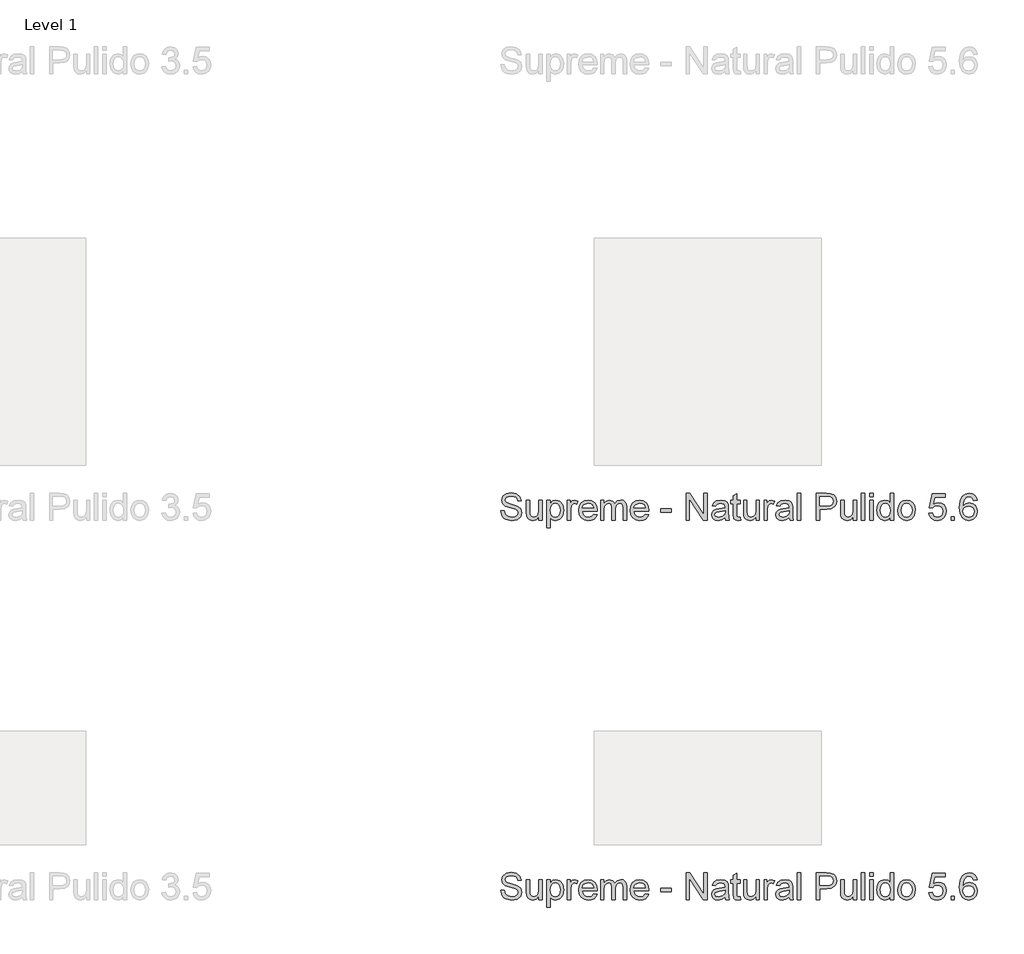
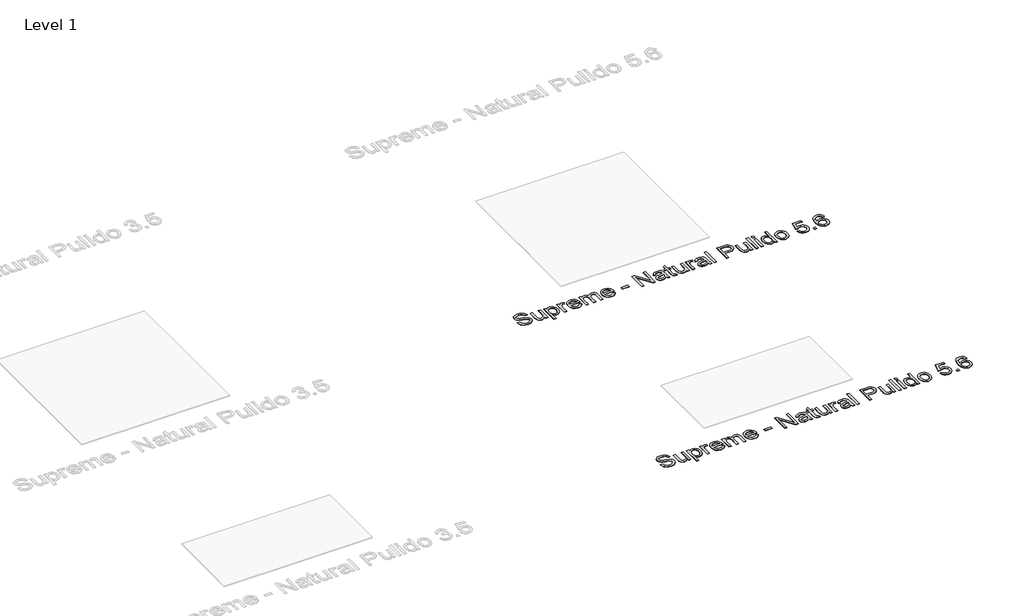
# One storey, part 37 of 80: 2 proxies.
"""IFC4 building model written with IfcOpenShell, lengths in millimetres."""

from ifc_helpers import new_model, si_unit, origin, origin_with_axes, place, context, project, spatial, polyline, outline, extrude, element, save

model = new_model("IFC4")

# Units and contexts
model_context = context("Model", 3, world=origin())
ifc_project = project(units=[si_unit("LENGTHUNIT", "METRE", prefix="MILLI")], contexts=[model_context])

# Site, building, storey
site = spatial("IfcSite", under=ifc_project)
building = spatial("IfcBuilding", under=site)
storey = spatial("IfcBuildingStorey", under=building, Name="Level 1", Elevation=0.0)

# Proxies
placement = place(None, origin())
element("IfcBuildingElementProxy", 1, Name="24\" Arial", ObjectType="24\" Arial", at=placement, inside=storey, context=model_context, shape_type="SweptSolid", body=[
    extrude(outline(polyline([(7862.4623536, -575.9830961), (7877.2315844, -575.9830961), (7881.9911998, -590.76675), (7893.6161998, -600.1129038), (7911.3277383, -603.6754038), (7926.7604306, -600.9782884), (7936.7267767, -593.5648269), (7940.0008152, -583.6561731), (7937.5488921, -574.4398269), (7927.5104306, -567.7330961), (7906.0056229, -562.0936731), (7882.8565844, -554.8100192), (7870.2940844, -543.8196346), (7866.1546613, -529.1369423), (7871.2748536, -512.4205961), (7886.2315844, -500.6225192), (7908.1258152, -496.5984808), (7931.4911998, -500.8100192), (7947.0681229, -513.1850192), (7952.9238921, -531.6754038), (7938.1546613, -531.6754038), (7935.4431229, -522.8629038), (7929.7892767, -516.5023269), (7920.9551421, -512.6513654), (7908.7027383, -511.3677115), (7896.1618729, -512.6369423), (7887.5585075, -516.4446346), (7882.5825459, -522.048), (7880.9238921, -528.70425), (7885.6258152, -538.9446346), (7909.7411998, -547.1946346), (7935.8758152, -554.6080961), (7950.1690844, -566.57925), (7954.7700459, -583.2811731), (7949.4767767, -600.9494423), (7934.2460075, -613.8436731), (7911.9046613, -618.4446346), (7885.5248536, -613.4830961), (7876.0380748, -607.26675), (7868.8373536, -598.5407884), (7862.4623536, -575.9830961)])), origin_with_axes(), (0.0, 0.0, 1.0), 2.0),
    extrude(outline(polyline([(8030.4623536, -616.5984808), (8030.4623536, -601.6850192), (8018.8950459, -614.2547308), (8003.8085075, -618.4446346), (7989.9190844, -615.5023269), (7980.3421613, -608.1177115), (7975.9431229, -597.2427115), (7975.0777383, -583.5119423), (7975.0777383, -529.82925), (7989.846969, -529.82925), (7989.846969, -576.5600192), (7990.7411998, -591.6177115), (7996.5825459, -600.4590577), (8007.5873536, -603.6754038), (8019.9190844, -600.3869423), (8028.0681229, -591.4302115), (8030.4623536, -574.9734808), (8030.4623536, -529.82925), (8045.2315844, -529.82925), (8045.2315844, -616.5984808), (8030.4623536, -616.5984808)])), origin_with_axes(), (0.0, 0.0, 1.0), 2.0),
    extrude(outline(polyline([(8065.5392767, -649.82925), (8065.5392767, -529.82925), (8080.3085075, -529.82925), (8080.3085075, -544.3100192), (8090.5200459, -532.0648269), (8104.3085075, -527.9830961), (8123.0296613, -533.6946346), (8135.2604306, -549.7907884), (8139.3854306, -572.5504038), (8134.7267767, -596.4782884), (8129.0152383, -605.8677115), (8121.1979306, -612.7763654), (8102.5200459, -618.4446346), (8089.6690844, -614.6513654), (8080.3085075, -605.0600192), (8080.3085075, -649.82925), (8065.5392767, -649.82925)]), holes=[polyline([(8080.3085075, -573.9061731), (8081.9058633, -587.1465577), (8086.6979306, -596.4061731), (8093.768844, -601.8580961), (8102.2027383, -603.6754038), (8110.7736517, -601.7931923), (8118.0248536, -596.1465577), (8122.9683633, -586.548), (8124.6161998, -572.8100192), (8123.0080267, -559.64175), (8118.1835075, -550.2523269), (8111.1234113, -544.6273269), (8102.8085075, -542.7523269), (8094.4611517, -544.7463173), (8087.1306229, -550.7282884), (8082.0140363, -560.5107404), (8080.3085075, -573.9061731)])]), origin_with_axes(), (0.0, 0.0, 1.0), 2.0),
    extrude(outline(polyline([(8156.0008152, -616.5984808), (8156.0008152, -529.82925), (8168.9238921, -529.82925), (8168.9238921, -542.6657884), (8178.096969, -530.8388654), (8187.3277383, -527.9830961), (8202.1546613, -532.5407884), (8197.221969, -545.7811731), (8186.8373536, -542.7523269), (8178.4863921, -545.6657884), (8173.1642767, -553.7427115), (8170.7700459, -570.9927115), (8170.7700459, -616.5984808), (8156.0008152, -616.5984808)])), origin_with_axes(), (0.0, 0.0, 1.0), 2.0),
    extrude(outline(polyline([(8272.1354306, -590.7523269), (8286.6161998, -592.5984808), (8281.3986517, -603.5095384), (8273.0729306, -611.6657884), (8261.8265363, -616.7499231), (8247.846969, -618.4446346), (8230.5176421, -615.5203558), (8217.1835075, -606.7475192), (8208.6811036, -592.6958365), (8205.846969, -573.9350192), (8208.7099498, -554.5431923), (8217.2988921, -540.0407884), (8230.4527383, -530.9975192), (8247.0104306, -527.9830961), (8263.0524979, -530.9903077), (8275.8710075, -540.0119423), (8284.2760556, -554.4855), (8287.0777383, -573.8484808), (8286.9911998, -577.82925), (8220.6161998, -577.82925), (8223.1726902, -588.8845384), (8229.1113921, -597.0119423), (8237.6823056, -602.0095384), (8248.1354306, -603.6754038), (8262.6161998, -600.5888654), (8272.1354306, -590.7523269)]), holes=[polyline([(8220.6161998, -563.0600192), (8272.3085075, -563.0600192), (8266.3950459, -549.6754038), (8257.784469, -544.4830961), (8246.9527383, -542.7523269), (8228.7652383, -548.2763654), (8223.0428825, -554.7342981), (8220.6161998, -563.0600192)])]), origin_with_axes(), (0.0, 0.0, 1.0), 2.0),
    extrude(outline(polyline([(8301.846969, -616.5984808), (8301.846969, -529.82925), (8316.6161998, -529.82925), (8316.6161998, -544.1080961), (8326.7700459, -532.4109808), (8341.221969, -527.9830961), (8356.0200459, -532.4975192), (8364.1546613, -545.1465577), (8375.6786998, -532.2739615), (8390.2315844, -527.9830961), (8401.3337479, -529.7679519), (8409.5440844, -535.1225192), (8414.6174017, -544.1910288), (8416.3085075, -557.1177115), (8416.3085075, -616.5984808), (8401.5392767, -616.5984808), (8401.5392767, -563.4638654), (8400.1690844, -551.1321346), (8395.2075459, -545.0600192), (8386.7700459, -542.7523269), (8378.768844, -544.2306923), (8372.2460075, -548.6657884), (8367.9082671, -556.3605), (8366.4623536, -567.6177115), (8366.4623536, -616.5984808), (8351.6931229, -616.5984808), (8351.6931229, -561.8196346), (8348.2748536, -547.5119423), (8337.0681229, -542.7523269), (8326.1354306, -545.9254038), (8318.8661998, -555.2138654), (8316.6161998, -572.8388654), (8316.6161998, -616.5984808), (8301.846969, -616.5984808)])), origin_with_axes(), (0.0, 0.0, 1.0), 2.0),
    extrude(outline(polyline([(8499.2123536, -590.7523269), (8513.6931229, -592.5984808), (8508.4755748, -603.5095384), (8500.1498536, -611.6657884), (8488.9034594, -616.7499231), (8474.9238921, -618.4446346), (8457.5945652, -615.5203558), (8444.2604306, -606.7475192), (8435.7580267, -592.6958365), (8432.9238921, -573.9350192), (8435.7868729, -554.5431923), (8444.3758152, -540.0407884), (8457.5296613, -530.9975192), (8474.0873536, -527.9830961), (8490.1294209, -530.9903077), (8502.9479306, -540.0119423), (8511.3529786, -554.4855), (8514.1546613, -573.8484808), (8514.0681229, -577.82925), (8447.6931229, -577.82925), (8450.2496133, -588.8845384), (8456.1883152, -597.0119423), (8464.7592286, -602.0095384), (8475.2123536, -603.6754038), (8489.6931229, -600.5888654), (8499.2123536, -590.7523269)]), holes=[polyline([(8447.6931229, -563.0600192), (8499.3854306, -563.0600192), (8493.471969, -549.6754038), (8484.8613921, -544.4830961), (8474.0296613, -542.7523269), (8455.8421613, -548.2763654), (8450.1198056, -554.7342981), (8447.6931229, -563.0600192)])]), origin_with_axes(), (0.0, 0.0, 1.0), 2.0),
    extrude(outline(polyline([(8567.6931229, -581.5215577), (8567.6931229, -566.7523269), (8613.846969, -566.7523269), (8613.846969, -581.5215577), (8567.6931229, -581.5215577)])), origin_with_axes(), (0.0, 0.0, 1.0), 2.0),
    extrude(outline(polyline([(8678.4623536, -616.5984808), (8678.4623536, -498.4446346), (8694.2700459, -498.4446346), (8756.0008152, -592.0504038), (8756.0008152, -498.4446346), (8770.7700459, -498.4446346), (8770.7700459, -616.5984808), (8754.9623536, -616.5984808), (8693.2315844, -522.9638654), (8693.2315844, -616.5984808), (8678.4623536, -616.5984808)])), origin_with_axes(), (0.0, 0.0, 1.0), 2.0),
    extrude(outline(polyline([(8850.1546613, -605.5215577), (8835.8325459, -615.5311731), (8820.0104306, -618.4446346), (8807.6678825, -616.6922308), (8798.5633152, -611.4350192), (8792.9491325, -603.4518461), (8791.0777383, -593.5215577), (8793.9046613, -581.8388654), (8801.3325459, -573.3580961), (8811.6738921, -568.5119423), (8824.4527383, -566.2907884), (8850.0681229, -561.2138654), (8850.1546613, -557.9254038), (8846.0873536, -547.0215577), (8829.7604306, -542.7523269), (8814.8181229, -545.5936731), (8807.6931229, -555.6754038), (8792.9238921, -553.82925), (8799.3133152, -539.4061731), (8812.1786998, -530.95425), (8831.6642767, -527.9830961), (8849.5633152, -530.6080961), (8859.6738921, -537.1994423), (8864.2027383, -547.2234808), (8864.9238921, -560.1465577), (8864.9238921, -578.5215577), (8865.6738921, -604.1802115), (8868.6161998, -616.5984808), (8853.846969, -616.5984808), (8850.1546613, -605.5215577)]), holes=[polyline([(8850.1546613, -575.9830961), (8826.3277383, -580.5119423), (8813.6210075, -582.9061731), (8807.8661998, -586.8004038), (8805.846969, -592.4830961), (8810.2460075, -600.4734808), (8823.1546613, -603.6754038), (8838.096969, -600.14175), (8847.7315844, -591.5888654), (8850.0681229, -580.1657884), (8850.1546613, -575.9830961)])]), origin_with_axes(), (0.0, 0.0, 1.0), 2.0),
    extrude(outline(polyline([(8916.6161998, -604.2811731), (8918.4623536, -617.0311731), (8907.4142767, -618.4446346), (8895.0392767, -615.9927115), (8888.8661998, -609.5600192), (8887.0777383, -592.8004038), (8887.0777383, -544.5984808), (8876.0008152, -544.5984808), (8876.0008152, -529.82925), (8887.0777383, -529.82925), (8887.0777383, -508.7427115), (8901.846969, -500.0600192), (8901.846969, -529.82925), (8916.6161998, -529.82925), (8916.6161998, -544.5984808), (8901.846969, -544.5984808), (8901.846969, -592.3677115), (8902.6258152, -599.9830961), (8905.1498536, -602.6802115), (8910.1835075, -603.6754038), (8916.6161998, -604.2811731)])), origin_with_axes(), (0.0, 0.0, 1.0), 2.0),
    extrude(outline(polyline([(8986.7700459, -616.5984808), (8986.7700459, -601.6850192), (8975.2027383, -614.2547308), (8960.1161998, -618.4446346), (8946.2267767, -615.5023269), (8936.6498536, -608.1177115), (8932.2508152, -597.2427115), (8931.3854306, -583.5119423), (8931.3854306, -529.82925), (8946.1546613, -529.82925), (8946.1546613, -576.5600192), (8947.0488921, -591.6177115), (8952.8902383, -600.4590577), (8963.8950459, -603.6754038), (8976.2267767, -600.3869423), (8984.3758152, -591.4302115), (8986.7700459, -574.9734808), (8986.7700459, -529.82925), (9001.5392767, -529.82925), (9001.5392767, -616.5984808), (8986.7700459, -616.5984808)])), origin_with_axes(), (0.0, 0.0, 1.0), 2.0),
    extrude(outline(polyline([(9021.846969, -616.5984808), (9021.846969, -529.82925), (9034.7700459, -529.82925), (9034.7700459, -542.6657884), (9043.9431229, -530.8388654), (9053.1738921, -527.9830961), (9068.0008152, -532.5407884), (9063.0681229, -545.7811731), (9052.6835075, -542.7523269), (9044.3325459, -545.6657884), (9039.0104306, -553.7427115), (9036.6161998, -570.9927115), (9036.6161998, -616.5984808), (9021.846969, -616.5984808)])), origin_with_axes(), (0.0, 0.0, 1.0), 2.0),
    extrude(outline(polyline([(9132.6161998, -605.5215577), (9118.2940844, -615.5311731), (9102.471969, -618.4446346), (9090.1294209, -616.6922308), (9081.0248536, -611.4350192), (9075.4106709, -603.4518461), (9073.5392767, -593.5215577), (9076.3661998, -581.8388654), (9083.7940844, -573.3580961), (9094.1354306, -568.5119423), (9106.9142767, -566.2907884), (9132.5296613, -561.2138654), (9132.6161998, -557.9254038), (9128.5488921, -547.0215577), (9112.221969, -542.7523269), (9097.2796613, -545.5936731), (9090.1546613, -555.6754038), (9075.3854306, -553.82925), (9081.7748536, -539.4061731), (9094.6402383, -530.95425), (9114.1258152, -527.9830961), (9132.0248536, -530.6080961), (9142.1354306, -537.1994423), (9146.6642767, -547.2234808), (9147.3854306, -560.1465577), (9147.3854306, -578.5215577), (9148.1354306, -604.1802115), (9151.0777383, -616.5984808), (9136.3085075, -616.5984808), (9132.6161998, -605.5215577)]), holes=[polyline([(9132.6161998, -575.9830961), (9108.7892767, -580.5119423), (9096.0825459, -582.9061731), (9090.3277383, -586.8004038), (9088.3085075, -592.4830961), (9092.7075459, -600.4734808), (9105.6161998, -603.6754038), (9120.5585075, -600.14175), (9130.1931229, -591.5888654), (9132.5296613, -580.1657884), (9132.6161998, -575.9830961)])]), origin_with_axes(), (0.0, 0.0, 1.0), 2.0),
    extrude(outline(polyline([(9167.6931229, -616.5984808), (9167.6931229, -498.4446346), (9182.4623536, -498.4446346), (9182.4623536, -616.5984808), (9167.6931229, -616.5984808)])), origin_with_axes(), (0.0, 0.0, 1.0), 2.0),
    extrude(outline(polyline([(9252.6161998, -616.5984808), (9252.6161998, -498.4446346), (9296.4046613, -498.4446346), (9314.0585075, -499.5696346), (9328.409469, -505.0936731), (9337.7123536, -516.51675), (9341.2315844, -532.6273269), (9338.8553825, -546.5528077), (9331.7267767, -558.1561731), (9318.3962479, -565.9879038), (9297.4142767, -568.5984808), (9267.3854306, -568.5984808), (9267.3854306, -616.5984808), (9252.6161998, -616.5984808)]), holes=[polyline([(9267.3854306, -553.82925), (9298.2796613, -553.82925), (9311.3758152, -552.4734808), (9320.0296613, -548.4061731), (9324.8541806, -541.8797308), (9326.4623536, -533.1465577), (9322.6690844, -520.9157884), (9312.7027383, -514.2234808), (9297.9335075, -513.2138654), (9267.3854306, -513.2138654), (9267.3854306, -553.82925)])]), origin_with_axes(), (0.0, 0.0, 1.0), 2.0),
    extrude(outline(polyline([(9415.0777383, -616.5984808), (9415.0777383, -601.6850192), (9403.5104306, -614.2547308), (9388.4238921, -618.4446346), (9374.534469, -615.5023269), (9364.9575459, -608.1177115), (9360.5585075, -597.2427115), (9359.6931229, -583.5119423), (9359.6931229, -529.82925), (9374.4623536, -529.82925), (9374.4623536, -576.5600192), (9375.3565844, -591.6177115), (9381.1979306, -600.4590577), (9392.2027383, -603.6754038), (9404.534469, -600.3869423), (9412.6835075, -591.4302115), (9415.0777383, -574.9734808), (9415.0777383, -529.82925), (9429.846969, -529.82925), (9429.846969, -616.5984808), (9415.0777383, -616.5984808)])), origin_with_axes(), (0.0, 0.0, 1.0), 2.0),
    extrude(outline(polyline([(9450.1546613, -616.5984808), (9450.1546613, -498.4446346), (9464.9238921, -498.4446346), (9464.9238921, -616.5984808), (9450.1546613, -616.5984808)])), origin_with_axes(), (0.0, 0.0, 1.0), 2.0),
    extrude(outline(polyline([(9487.0777383, -513.2138654), (9487.0777383, -498.4446346), (9501.846969, -498.4446346), (9501.846969, -513.2138654), (9487.0777383, -513.2138654)])), origin_with_axes(), (0.0, 0.0, 1.0), 2.0),
    extrude(outline(polyline([(9487.0777383, -616.5984808), (9487.0777383, -529.82925), (9501.846969, -529.82925), (9501.846969, -616.5984808), (9487.0777383, -616.5984808)])), origin_with_axes(), (0.0, 0.0, 1.0), 2.0),
    extrude(outline(polyline([(9577.5392767, -616.5984808), (9577.5392767, -602.6657884), (9567.7676421, -614.4999231), (9554.2604306, -618.4446346), (9535.971969, -612.7330961), (9523.0488921, -596.7955961), (9518.4623536, -573.3004038), (9522.6883152, -549.7907884), (9527.9671613, -540.4662692), (9535.3517767, -533.6080961), (9554.2027383, -527.9830961), (9567.8181229, -532.0071346), (9577.5392767, -542.4638654), (9577.5392767, -498.4446346), (9592.3085075, -498.4446346), (9592.3085075, -616.5984808), (9577.5392767, -616.5984808)]), holes=[polyline([(9533.2315844, -573.2427115), (9534.8974498, -586.6020865), (9539.8950459, -596.1032884), (9547.1570652, -601.782375), (9555.6161998, -603.6754038), (9564.0717286, -601.8689134), (9571.1498536, -596.4494423), (9575.9419209, -587.3160288), (9577.5392767, -574.3677115), (9575.9130748, -560.2114615), (9571.034469, -550.3965577), (9563.7760556, -544.6633846), (9555.0104306, -542.7523269), (9546.4647575, -544.5876634), (9539.4623536, -550.0936731), (9534.7892767, -559.5516058), (9533.2315844, -573.2427115)])]), origin_with_axes(), (0.0, 0.0, 1.0), 2.0),
    extrude(outline(polyline([(9610.7700459, -573.2138654), (9613.9647575, -552.2931923), (9623.5488921, -537.5888654), (9635.3902383, -530.3845384), (9649.5681229, -527.9830961), (9665.0837479, -530.907375), (9677.4767767, -539.6802115), (9685.6005748, -553.6092981), (9688.3085075, -572.0023269), (9683.5200459, -598.2811731), (9669.5729306, -613.1513654), (9649.5681229, -618.4446346), (9633.8649979, -615.5311731), (9621.4863921, -606.7907884), (9613.4491325, -592.5696346), (9610.7700459, -573.2138654)]), holes=[polyline([(9625.5392767, -573.1850192), (9627.2484113, -586.5516058), (9632.3758152, -596.0744423), (9640.0921613, -601.7751634), (9649.5681229, -603.6754038), (9659.0008152, -601.7643461), (9666.7027383, -596.0311731), (9671.8301421, -586.3821346), (9673.5392767, -572.7234808), (9671.8193248, -559.7463173), (9666.659469, -550.3532884), (9658.9467286, -544.6525673), (9649.5681229, -542.7523269), (9640.0921613, -544.6453558), (9632.3758152, -550.3244423), (9627.2484113, -559.8256442), (9625.5392767, -573.1850192)])]), origin_with_axes(), (0.0, 0.0, 1.0), 2.0),
    extrude(outline(polyline([(9747.3854306, -585.2138654), (9762.1546613, -583.3677115), (9769.596969, -598.5840577), (9785.0296613, -603.6754038), (9795.6161998, -601.9049711), (9803.5488921, -596.5936731), (9808.503219, -588.3544904), (9810.1546613, -577.8004038), (9808.6077863, -567.8629038), (9803.9671613, -560.2619423), (9796.1967286, -555.4374231), (9785.2604306, -553.82925), (9772.2940844, -556.3965577), (9764.0008152, -563.0600192), (9749.2315844, -561.2138654), (9762.1546613, -500.2907884), (9819.3854306, -500.2907884), (9819.3854306, -515.0600192), (9774.096969, -515.0600192), (9767.7796613, -547.5984808), (9778.3301421, -541.1946346), (9789.3854306, -539.0600192), (9803.1847094, -541.7066538), (9814.6402383, -549.6465577), (9822.3529786, -561.7475192), (9824.9238921, -576.8773269), (9822.6089883, -591.6465577), (9815.6642767, -604.2811731), (9802.3661998, -614.9037692), (9784.971969, -618.4446346), (9770.4659594, -616.1693942), (9758.909469, -609.3436731), (9750.987594, -598.7607404), (9747.3854306, -585.2138654)])), origin_with_axes(), (0.0, 0.0, 1.0), 2.0),
    extrude(outline(polyline([(9845.2315844, -616.5984808), (9845.2315844, -601.82925), (9860.0008152, -601.82925), (9860.0008152, -616.5984808), (9845.2315844, -616.5984808)])), origin_with_axes(), (0.0, 0.0, 1.0), 2.0),
    extrude(outline(polyline([(9959.6931229, -529.82925), (9944.9238921, -531.6754038), (9939.3277383, -519.3580961), (9932.628219, -514.7499231), (9924.5296613, -513.2138654), (9911.2027383, -516.7907884), (9901.1210075, -530.2186731), (9896.9238921, -556.5407884), (9909.9479306, -544.7571346), (9926.0873536, -540.9061731), (9939.7315844, -543.5383846), (9951.1835075, -551.4350192), (9958.9503344, -563.4999231), (9961.5392767, -578.6369423), (9956.6642767, -599.01675), (9943.2508152, -613.4398269), (9923.8950459, -618.4446346), (9907.1390363, -615.1273269), (9893.7940844, -605.1754038), (9885.0645171, -587.6080961), (9882.1546613, -561.4446346), (9885.3854306, -532.0287692), (9895.0777383, -511.9157884), (9908.3109113, -501.8124231), (9925.4527383, -498.4446346), (9938.4118729, -500.5287692), (9948.7892767, -506.7811731), (9956.0585075, -516.7114615), (9959.6931229, -529.82925)]), holes=[polyline([(9896.9238921, -578.4061731), (9900.3421613, -591.1994423), (9909.4286998, -600.4879038), (9922.7411998, -603.6754038), (9932.487594, -602.0239615), (9940.1498536, -597.0696346), (9945.1149979, -589.2811731), (9946.7700459, -579.1273269), (9945.1366325, -569.3809327), (9940.2363921, -561.9494423), (9932.4443248, -557.2439134), (9922.1354306, -555.6754038), (9912.4034594, -557.2439134), (9904.2652383, -561.9494423), (9898.7592286, -569.2006442), (9896.9238921, -578.4061731)])]), origin_with_axes(), (0.0, 0.0, 1.0), 2.0),
])
element("IfcBuildingElementProxy", 2, Name="24\" Arial", ObjectType="24\" Arial", at=placement, inside=storey, context=model_context, shape_type="SweptSolid", body=[
    extrude(outline(polyline([(7862.4623536, -2247.1898581), (7877.2315844, -2247.1898581), (7881.9911998, -2261.973512), (7893.6161998, -2271.3196658), (7911.3277383, -2274.8821658), (7926.7604306, -2272.1850504), (7936.7267767, -2264.7715889), (7940.0008152, -2254.862935), (7937.5488921, -2245.6465889), (7927.5104306, -2238.9398581), (7906.0056229, -2233.300435), (7882.8565844, -2226.0167812), (7870.2940844, -2215.0263966), (7866.1546613, -2200.3437043), (7871.2748536, -2183.6273581), (7886.2315844, -2171.8292812), (7908.1258152, -2167.8052427), (7931.4911998, -2172.0167812), (7947.0681229, -2184.3917812), (7952.9238921, -2202.8821658), (7938.1546613, -2202.8821658), (7935.4431229, -2194.0696658), (7929.7892767, -2187.7090889), (7920.9551421, -2183.8581273), (7908.7027383, -2182.5744735), (7896.1618729, -2183.8437043), (7887.5585075, -2187.6513966), (7882.5825459, -2193.254762), (7880.9238921, -2199.911012), (7885.6258152, -2210.1513966), (7909.7411998, -2218.4013966), (7935.8758152, -2225.8148581), (7950.1690844, -2237.786012), (7954.7700459, -2254.487935), (7949.4767767, -2272.1562043), (7934.2460075, -2285.050435), (7911.9046613, -2289.6513966), (7885.5248536, -2284.6898581), (7876.0380748, -2278.473512), (7868.8373536, -2269.7475504), (7862.4623536, -2247.1898581)])), origin_with_axes(), (0.0, 0.0, 1.0), 2.0),
    extrude(outline(polyline([(8030.4623536, -2287.8052427), (8030.4623536, -2272.8917812), (8018.8950459, -2285.4614927), (8003.8085075, -2289.6513966), (7989.9190844, -2286.7090889), (7980.3421613, -2279.3244735), (7975.9431229, -2268.4494735), (7975.0777383, -2254.7187043), (7975.0777383, -2201.036012), (7989.846969, -2201.036012), (7989.846969, -2247.7667812), (7990.7411998, -2262.8244735), (7996.5825459, -2271.6658197), (8007.5873536, -2274.8821658), (8019.9190844, -2271.5937043), (8028.0681229, -2262.6369735), (8030.4623536, -2246.1802427), (8030.4623536, -2201.036012), (8045.2315844, -2201.036012), (8045.2315844, -2287.8052427), (8030.4623536, -2287.8052427)])), origin_with_axes(), (0.0, 0.0, 1.0), 2.0),
    extrude(outline(polyline([(8065.5392767, -2321.036012), (8065.5392767, -2201.036012), (8080.3085075, -2201.036012), (8080.3085075, -2215.5167812), (8090.5200459, -2203.2715889), (8104.3085075, -2199.1898581), (8123.0296613, -2204.9013966), (8135.2604306, -2220.9975504), (8139.3854306, -2243.7571658), (8134.7267767, -2267.6850504), (8129.0152383, -2277.0744735), (8121.1979306, -2283.9831273), (8102.5200459, -2289.6513966), (8089.6690844, -2285.8581273), (8080.3085075, -2276.2667812), (8080.3085075, -2321.036012), (8065.5392767, -2321.036012)]), holes=[polyline([(8080.3085075, -2245.112935), (8081.9058633, -2258.3533197), (8086.6979306, -2267.612935), (8093.768844, -2273.0648581), (8102.2027383, -2274.8821658), (8110.7736517, -2272.9999543), (8118.0248536, -2267.3533197), (8122.9683633, -2257.754762), (8124.6161998, -2244.0167812), (8123.0080267, -2230.848512), (8118.1835075, -2221.4590889), (8111.1234113, -2215.8340889), (8102.8085075, -2213.9590889), (8094.4611517, -2215.9530793), (8087.1306229, -2221.9350504), (8082.0140363, -2231.7175023), (8080.3085075, -2245.112935)])]), origin_with_axes(), (0.0, 0.0, 1.0), 2.0),
    extrude(outline(polyline([(8156.0008152, -2287.8052427), (8156.0008152, -2201.036012), (8168.9238921, -2201.036012), (8168.9238921, -2213.8725504), (8178.096969, -2202.0456273), (8187.3277383, -2199.1898581), (8202.1546613, -2203.7475504), (8197.221969, -2216.987935), (8186.8373536, -2213.9590889), (8178.4863921, -2216.8725504), (8173.1642767, -2224.9494735), (8170.7700459, -2242.1994735), (8170.7700459, -2287.8052427), (8156.0008152, -2287.8052427)])), origin_with_axes(), (0.0, 0.0, 1.0), 2.0),
    extrude(outline(polyline([(8272.1354306, -2261.9590889), (8286.6161998, -2263.8052427), (8281.3986517, -2274.7163004), (8273.0729306, -2282.8725504), (8261.8265363, -2287.956685), (8247.846969, -2289.6513966), (8230.5176421, -2286.7271177), (8217.1835075, -2277.9542812), (8208.6811036, -2263.9025985), (8205.846969, -2245.1417812), (8208.7099498, -2225.7499543), (8217.2988921, -2211.2475504), (8230.4527383, -2202.2042812), (8247.0104306, -2199.1898581), (8263.0524979, -2202.1970697), (8275.8710075, -2211.2187043), (8284.2760556, -2225.692262), (8287.0777383, -2245.0552427), (8286.9911998, -2249.036012), (8220.6161998, -2249.036012), (8223.1726902, -2260.0913004), (8229.1113921, -2268.2187043), (8237.6823056, -2273.2163004), (8248.1354306, -2274.8821658), (8262.6161998, -2271.7956273), (8272.1354306, -2261.9590889)]), holes=[polyline([(8220.6161998, -2234.2667812), (8272.3085075, -2234.2667812), (8266.3950459, -2220.8821658), (8257.784469, -2215.6898581), (8246.9527383, -2213.9590889), (8228.7652383, -2219.4831273), (8223.0428825, -2225.94106), (8220.6161998, -2234.2667812)])]), origin_with_axes(), (0.0, 0.0, 1.0), 2.0),
    extrude(outline(polyline([(8301.846969, -2287.8052427), (8301.846969, -2201.036012), (8316.6161998, -2201.036012), (8316.6161998, -2215.3148581), (8326.7700459, -2203.6177427), (8341.221969, -2199.1898581), (8356.0200459, -2203.7042812), (8364.1546613, -2216.3533197), (8375.6786998, -2203.4807235), (8390.2315844, -2199.1898581), (8401.3337479, -2200.9747139), (8409.5440844, -2206.3292812), (8414.6174017, -2215.3977908), (8416.3085075, -2228.3244735), (8416.3085075, -2287.8052427), (8401.5392767, -2287.8052427), (8401.5392767, -2234.6706273), (8400.1690844, -2222.3388966), (8395.2075459, -2216.2667812), (8386.7700459, -2213.9590889), (8378.768844, -2215.4374543), (8372.2460075, -2219.8725504), (8367.9082671, -2227.567262), (8366.4623536, -2238.8244735), (8366.4623536, -2287.8052427), (8351.6931229, -2287.8052427), (8351.6931229, -2233.0263966), (8348.2748536, -2218.7187043), (8337.0681229, -2213.9590889), (8326.1354306, -2217.1321658), (8318.8661998, -2226.4206273), (8316.6161998, -2244.0456273), (8316.6161998, -2287.8052427), (8301.846969, -2287.8052427)])), origin_with_axes(), (0.0, 0.0, 1.0), 2.0),
    extrude(outline(polyline([(8499.2123536, -2261.9590889), (8513.6931229, -2263.8052427), (8508.4755748, -2274.7163004), (8500.1498536, -2282.8725504), (8488.9034594, -2287.956685), (8474.9238921, -2289.6513966), (8457.5945652, -2286.7271177), (8444.2604306, -2277.9542812), (8435.7580267, -2263.9025985), (8432.9238921, -2245.1417812), (8435.7868729, -2225.7499543), (8444.3758152, -2211.2475504), (8457.5296613, -2202.2042812), (8474.0873536, -2199.1898581), (8490.1294209, -2202.1970697), (8502.9479306, -2211.2187043), (8511.3529786, -2225.692262), (8514.1546613, -2245.0552427), (8514.0681229, -2249.036012), (8447.6931229, -2249.036012), (8450.2496133, -2260.0913004), (8456.1883152, -2268.2187043), (8464.7592286, -2273.2163004), (8475.2123536, -2274.8821658), (8489.6931229, -2271.7956273), (8499.2123536, -2261.9590889)]), holes=[polyline([(8447.6931229, -2234.2667812), (8499.3854306, -2234.2667812), (8493.471969, -2220.8821658), (8484.8613921, -2215.6898581), (8474.0296613, -2213.9590889), (8455.8421613, -2219.4831273), (8450.1198056, -2225.94106), (8447.6931229, -2234.2667812)])]), origin_with_axes(), (0.0, 0.0, 1.0), 2.0),
    extrude(outline(polyline([(8567.6931229, -2252.7283197), (8567.6931229, -2237.9590889), (8613.846969, -2237.9590889), (8613.846969, -2252.7283197), (8567.6931229, -2252.7283197)])), origin_with_axes(), (0.0, 0.0, 1.0), 2.0),
    extrude(outline(polyline([(8678.4623536, -2287.8052427), (8678.4623536, -2169.6513966), (8694.2700459, -2169.6513966), (8756.0008152, -2263.2571658), (8756.0008152, -2169.6513966), (8770.7700459, -2169.6513966), (8770.7700459, -2287.8052427), (8754.9623536, -2287.8052427), (8693.2315844, -2194.1706273), (8693.2315844, -2287.8052427), (8678.4623536, -2287.8052427)])), origin_with_axes(), (0.0, 0.0, 1.0), 2.0),
    extrude(outline(polyline([(8850.1546613, -2276.7283197), (8835.8325459, -2286.737935), (8820.0104306, -2289.6513966), (8807.6678825, -2287.8989927), (8798.5633152, -2282.6417812), (8792.9491325, -2274.6586081), (8791.0777383, -2264.7283197), (8793.9046613, -2253.0456273), (8801.3325459, -2244.5648581), (8811.6738921, -2239.7187043), (8824.4527383, -2237.4975504), (8850.0681229, -2232.4206273), (8850.1546613, -2229.1321658), (8846.0873536, -2218.2283197), (8829.7604306, -2213.9590889), (8814.8181229, -2216.800435), (8807.6931229, -2226.8821658), (8792.9238921, -2225.036012), (8799.3133152, -2210.612935), (8812.1786998, -2202.161012), (8831.6642767, -2199.1898581), (8849.5633152, -2201.8148581), (8859.6738921, -2208.4062043), (8864.2027383, -2218.4302427), (8864.9238921, -2231.3533197), (8864.9238921, -2249.7283197), (8865.6738921, -2275.3869735), (8868.6161998, -2287.8052427), (8853.846969, -2287.8052427), (8850.1546613, -2276.7283197)]), holes=[polyline([(8850.1546613, -2247.1898581), (8826.3277383, -2251.7187043), (8813.6210075, -2254.112935), (8807.8661998, -2258.0071658), (8805.846969, -2263.6898581), (8810.2460075, -2271.6802427), (8823.1546613, -2274.8821658), (8838.096969, -2271.348512), (8847.7315844, -2262.7956273), (8850.0681229, -2251.3725504), (8850.1546613, -2247.1898581)])]), origin_with_axes(), (0.0, 0.0, 1.0), 2.0),
    extrude(outline(polyline([(8916.6161998, -2275.487935), (8918.4623536, -2288.237935), (8907.4142767, -2289.6513966), (8895.0392767, -2287.1994735), (8888.8661998, -2280.7667812), (8887.0777383, -2264.0071658), (8887.0777383, -2215.8052427), (8876.0008152, -2215.8052427), (8876.0008152, -2201.036012), (8887.0777383, -2201.036012), (8887.0777383, -2179.9494735), (8901.846969, -2171.2667812), (8901.846969, -2201.036012), (8916.6161998, -2201.036012), (8916.6161998, -2215.8052427), (8901.846969, -2215.8052427), (8901.846969, -2263.5744735), (8902.6258152, -2271.1898581), (8905.1498536, -2273.8869735), (8910.1835075, -2274.8821658), (8916.6161998, -2275.487935)])), origin_with_axes(), (0.0, 0.0, 1.0), 2.0),
    extrude(outline(polyline([(8986.7700459, -2287.8052427), (8986.7700459, -2272.8917812), (8975.2027383, -2285.4614927), (8960.1161998, -2289.6513966), (8946.2267767, -2286.7090889), (8936.6498536, -2279.3244735), (8932.2508152, -2268.4494735), (8931.3854306, -2254.7187043), (8931.3854306, -2201.036012), (8946.1546613, -2201.036012), (8946.1546613, -2247.7667812), (8947.0488921, -2262.8244735), (8952.8902383, -2271.6658197), (8963.8950459, -2274.8821658), (8976.2267767, -2271.5937043), (8984.3758152, -2262.6369735), (8986.7700459, -2246.1802427), (8986.7700459, -2201.036012), (9001.5392767, -2201.036012), (9001.5392767, -2287.8052427), (8986.7700459, -2287.8052427)])), origin_with_axes(), (0.0, 0.0, 1.0), 2.0),
    extrude(outline(polyline([(9021.846969, -2287.8052427), (9021.846969, -2201.036012), (9034.7700459, -2201.036012), (9034.7700459, -2213.8725504), (9043.9431229, -2202.0456273), (9053.1738921, -2199.1898581), (9068.0008152, -2203.7475504), (9063.0681229, -2216.987935), (9052.6835075, -2213.9590889), (9044.3325459, -2216.8725504), (9039.0104306, -2224.9494735), (9036.6161998, -2242.1994735), (9036.6161998, -2287.8052427), (9021.846969, -2287.8052427)])), origin_with_axes(), (0.0, 0.0, 1.0), 2.0),
    extrude(outline(polyline([(9132.6161998, -2276.7283197), (9118.2940844, -2286.737935), (9102.471969, -2289.6513966), (9090.1294209, -2287.8989927), (9081.0248536, -2282.6417812), (9075.4106709, -2274.6586081), (9073.5392767, -2264.7283197), (9076.3661998, -2253.0456273), (9083.7940844, -2244.5648581), (9094.1354306, -2239.7187043), (9106.9142767, -2237.4975504), (9132.5296613, -2232.4206273), (9132.6161998, -2229.1321658), (9128.5488921, -2218.2283197), (9112.221969, -2213.9590889), (9097.2796613, -2216.800435), (9090.1546613, -2226.8821658), (9075.3854306, -2225.036012), (9081.7748536, -2210.612935), (9094.6402383, -2202.161012), (9114.1258152, -2199.1898581), (9132.0248536, -2201.8148581), (9142.1354306, -2208.4062043), (9146.6642767, -2218.4302427), (9147.3854306, -2231.3533197), (9147.3854306, -2249.7283197), (9148.1354306, -2275.3869735), (9151.0777383, -2287.8052427), (9136.3085075, -2287.8052427), (9132.6161998, -2276.7283197)]), holes=[polyline([(9132.6161998, -2247.1898581), (9108.7892767, -2251.7187043), (9096.0825459, -2254.112935), (9090.3277383, -2258.0071658), (9088.3085075, -2263.6898581), (9092.7075459, -2271.6802427), (9105.6161998, -2274.8821658), (9120.5585075, -2271.348512), (9130.1931229, -2262.7956273), (9132.5296613, -2251.3725504), (9132.6161998, -2247.1898581)])]), origin_with_axes(), (0.0, 0.0, 1.0), 2.0),
    extrude(outline(polyline([(9167.6931229, -2287.8052427), (9167.6931229, -2169.6513966), (9182.4623536, -2169.6513966), (9182.4623536, -2287.8052427), (9167.6931229, -2287.8052427)])), origin_with_axes(), (0.0, 0.0, 1.0), 2.0),
    extrude(outline(polyline([(9252.6161998, -2287.8052427), (9252.6161998, -2169.6513966), (9296.4046613, -2169.6513966), (9314.0585075, -2170.7763966), (9328.409469, -2176.300435), (9337.7123536, -2187.723512), (9341.2315844, -2203.8340889), (9338.8553825, -2217.7595697), (9331.7267767, -2229.362935), (9318.3962479, -2237.1946658), (9297.4142767, -2239.8052427), (9267.3854306, -2239.8052427), (9267.3854306, -2287.8052427), (9252.6161998, -2287.8052427)]), holes=[polyline([(9267.3854306, -2225.036012), (9298.2796613, -2225.036012), (9311.3758152, -2223.6802427), (9320.0296613, -2219.612935), (9324.8541806, -2213.0864927), (9326.4623536, -2204.3533197), (9322.6690844, -2192.1225504), (9312.7027383, -2185.4302427), (9297.9335075, -2184.4206273), (9267.3854306, -2184.4206273), (9267.3854306, -2225.036012)])]), origin_with_axes(), (0.0, 0.0, 1.0), 2.0),
    extrude(outline(polyline([(9415.0777383, -2287.8052427), (9415.0777383, -2272.8917812), (9403.5104306, -2285.4614927), (9388.4238921, -2289.6513966), (9374.534469, -2286.7090889), (9364.9575459, -2279.3244735), (9360.5585075, -2268.4494735), (9359.6931229, -2254.7187043), (9359.6931229, -2201.036012), (9374.4623536, -2201.036012), (9374.4623536, -2247.7667812), (9375.3565844, -2262.8244735), (9381.1979306, -2271.6658197), (9392.2027383, -2274.8821658), (9404.534469, -2271.5937043), (9412.6835075, -2262.6369735), (9415.0777383, -2246.1802427), (9415.0777383, -2201.036012), (9429.846969, -2201.036012), (9429.846969, -2287.8052427), (9415.0777383, -2287.8052427)])), origin_with_axes(), (0.0, 0.0, 1.0), 2.0),
    extrude(outline(polyline([(9450.1546613, -2287.8052427), (9450.1546613, -2169.6513966), (9464.9238921, -2169.6513966), (9464.9238921, -2287.8052427), (9450.1546613, -2287.8052427)])), origin_with_axes(), (0.0, 0.0, 1.0), 2.0),
    extrude(outline(polyline([(9487.0777383, -2184.4206273), (9487.0777383, -2169.6513966), (9501.846969, -2169.6513966), (9501.846969, -2184.4206273), (9487.0777383, -2184.4206273)])), origin_with_axes(), (0.0, 0.0, 1.0), 2.0),
    extrude(outline(polyline([(9487.0777383, -2287.8052427), (9487.0777383, -2201.036012), (9501.846969, -2201.036012), (9501.846969, -2287.8052427), (9487.0777383, -2287.8052427)])), origin_with_axes(), (0.0, 0.0, 1.0), 2.0),
    extrude(outline(polyline([(9577.5392767, -2287.8052427), (9577.5392767, -2273.8725504), (9567.7676421, -2285.706685), (9554.2604306, -2289.6513966), (9535.971969, -2283.9398581), (9523.0488921, -2268.0023581), (9518.4623536, -2244.5071658), (9522.6883152, -2220.9975504), (9527.9671613, -2211.6730312), (9535.3517767, -2204.8148581), (9554.2027383, -2199.1898581), (9567.8181229, -2203.2138966), (9577.5392767, -2213.6706273), (9577.5392767, -2169.6513966), (9592.3085075, -2169.6513966), (9592.3085075, -2287.8052427), (9577.5392767, -2287.8052427)]), holes=[polyline([(9533.2315844, -2244.4494735), (9534.8974498, -2257.8088485), (9539.8950459, -2267.3100504), (9547.1570652, -2272.989137), (9555.6161998, -2274.8821658), (9564.0717286, -2273.0756754), (9571.1498536, -2267.6562043), (9575.9419209, -2258.5227908), (9577.5392767, -2245.5744735), (9575.9130748, -2231.4182235), (9571.034469, -2221.6033197), (9563.7760556, -2215.8701466), (9555.0104306, -2213.9590889), (9546.4647575, -2215.7944254), (9539.4623536, -2221.300435), (9534.7892767, -2230.7583677), (9533.2315844, -2244.4494735)])]), origin_with_axes(), (0.0, 0.0, 1.0), 2.0),
    extrude(outline(polyline([(9610.7700459, -2244.4206273), (9613.9647575, -2223.4999543), (9623.5488921, -2208.7956273), (9635.3902383, -2201.5913004), (9649.5681229, -2199.1898581), (9665.0837479, -2202.114137), (9677.4767767, -2210.8869735), (9685.6005748, -2224.81606), (9688.3085075, -2243.2090889), (9683.5200459, -2269.487935), (9669.5729306, -2284.3581273), (9649.5681229, -2289.6513966), (9633.8649979, -2286.737935), (9621.4863921, -2277.9975504), (9613.4491325, -2263.7763966), (9610.7700459, -2244.4206273)]), holes=[polyline([(9625.5392767, -2244.3917812), (9627.2484113, -2257.7583677), (9632.3758152, -2267.2812043), (9640.0921613, -2272.9819254), (9649.5681229, -2274.8821658), (9659.0008152, -2272.9711081), (9666.7027383, -2267.237935), (9671.8301421, -2257.5888966), (9673.5392767, -2243.9302427), (9671.8193248, -2230.9530793), (9666.659469, -2221.5600504), (9658.9467286, -2215.8593293), (9649.5681229, -2213.9590889), (9640.0921613, -2215.8521177), (9632.3758152, -2221.5312043), (9627.2484113, -2231.0324062), (9625.5392767, -2244.3917812)])]), origin_with_axes(), (0.0, 0.0, 1.0), 2.0),
    extrude(outline(polyline([(9747.3854306, -2256.4206273), (9762.1546613, -2254.5744735), (9769.596969, -2269.7908197), (9785.0296613, -2274.8821658), (9795.6161998, -2273.1117331), (9803.5488921, -2267.800435), (9808.503219, -2259.5612523), (9810.1546613, -2249.0071658), (9808.6077863, -2239.0696658), (9803.9671613, -2231.4687043), (9796.1967286, -2226.644185), (9785.2604306, -2225.036012), (9772.2940844, -2227.6033197), (9764.0008152, -2234.2667812), (9749.2315844, -2232.4206273), (9762.1546613, -2171.4975504), (9819.3854306, -2171.4975504), (9819.3854306, -2186.2667812), (9774.096969, -2186.2667812), (9767.7796613, -2218.8052427), (9778.3301421, -2212.4013966), (9789.3854306, -2210.2667812), (9803.1847094, -2212.9134158), (9814.6402383, -2220.8533197), (9822.3529786, -2232.9542812), (9824.9238921, -2248.0840889), (9822.6089883, -2262.8533197), (9815.6642767, -2275.487935), (9802.3661998, -2286.1105312), (9784.971969, -2289.6513966), (9770.4659594, -2287.3761562), (9758.909469, -2280.550435), (9750.987594, -2269.9675023), (9747.3854306, -2256.4206273)])), origin_with_axes(), (0.0, 0.0, 1.0), 2.0),
    extrude(outline(polyline([(9845.2315844, -2287.8052427), (9845.2315844, -2273.036012), (9860.0008152, -2273.036012), (9860.0008152, -2287.8052427), (9845.2315844, -2287.8052427)])), origin_with_axes(), (0.0, 0.0, 1.0), 2.0),
    extrude(outline(polyline([(9959.6931229, -2201.036012), (9944.9238921, -2202.8821658), (9939.3277383, -2190.5648581), (9932.628219, -2185.956685), (9924.5296613, -2184.4206273), (9911.2027383, -2187.9975504), (9901.1210075, -2201.425435), (9896.9238921, -2227.7475504), (9909.9479306, -2215.9638966), (9926.0873536, -2212.112935), (9939.7315844, -2214.7451466), (9951.1835075, -2222.6417812), (9958.9503344, -2234.706685), (9961.5392767, -2249.8437043), (9956.6642767, -2270.223512), (9943.2508152, -2284.6465889), (9923.8950459, -2289.6513966), (9907.1390363, -2286.3340889), (9893.7940844, -2276.3821658), (9885.0645171, -2258.8148581), (9882.1546613, -2232.6513966), (9885.3854306, -2203.2355312), (9895.0777383, -2183.1225504), (9908.3109113, -2173.019185), (9925.4527383, -2169.6513966), (9938.4118729, -2171.7355312), (9948.7892767, -2177.987935), (9956.0585075, -2187.9182235), (9959.6931229, -2201.036012)]), holes=[polyline([(9896.9238921, -2249.612935), (9900.3421613, -2262.4062043), (9909.4286998, -2271.6946658), (9922.7411998, -2274.8821658), (9932.487594, -2273.2307235), (9940.1498536, -2268.2763966), (9945.1149979, -2260.487935), (9946.7700459, -2250.3340889), (9945.1366325, -2240.5876947), (9940.2363921, -2233.1562043), (9932.4443248, -2228.4506754), (9922.1354306, -2226.8821658), (9912.4034594, -2228.4506754), (9904.2652383, -2233.1562043), (9898.7592286, -2240.4074062), (9896.9238921, -2249.612935)])]), origin_with_axes(), (0.0, 0.0, 1.0), 2.0),
])

save(model, "model.ifc")
